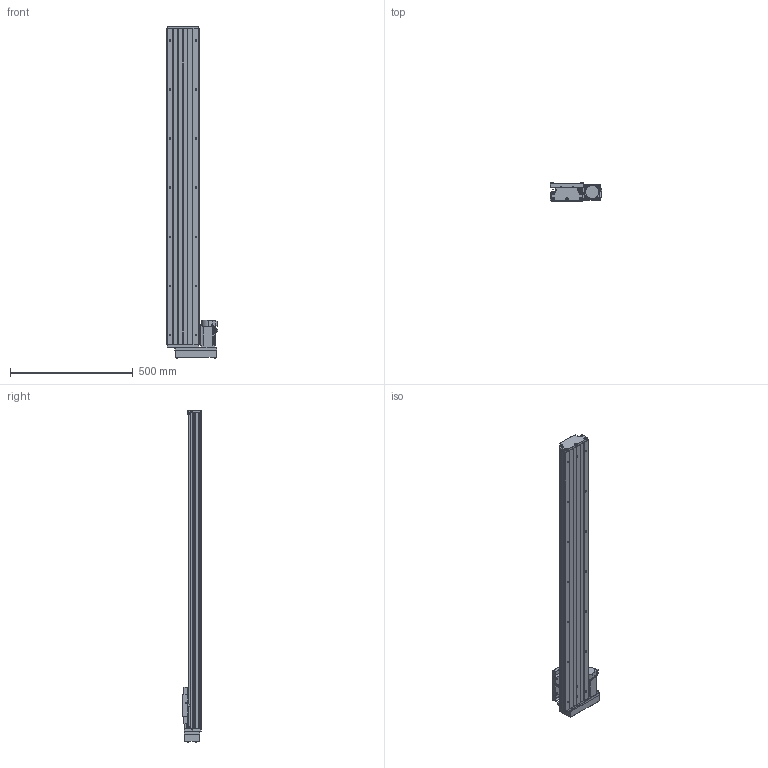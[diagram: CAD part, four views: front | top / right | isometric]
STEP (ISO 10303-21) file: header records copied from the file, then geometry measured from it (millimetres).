
FILE_DESCRIPTION (( 'STEP AP203' ), '1' );
FILE_NAME ('CTH130-1100-BR-M40-C4.step', '2023-06-30T02:50:07', ( '微软用户' ), ( '微软中国' ), 'SwSTEP 2.0', 'SolidWorks 2020', '' );
FILE_SCHEMA (( 'CONFIG_CONTROL_DESIGN' ));
Length unit declared in the file: millimetre
Products named in the file (20): CTH130-1100-BR-M40-C4; GBT70.1 M5℅16; GBT 70.2-M3¡Á5_M3¡Á6; GTH14-001_1100; CTHA60-017; す晦芛蹟隊 M3℅5; CTH130-002_GTH14-002; EE_SX911P_R; HG-KN43J-S100; GB T308.1-2013-6.35; CTHA60-016; GBT 70.2-M4¡Á35_M4¡Á35; GTH14-004; GBT 70.1-M3℅5; GTH14-015-2_CTHA86-015-2; GTH14-005; GBT77-2000 M3×3; GTH14-033; GB1155-6X6; CTH130-031
Assembly tree (60 placements, depth 2):
  CTH130-1100-BR-M40-C4
    GTH14-001_1100
    CTH130-002_GTH14-002
    GB T308.1-2013-6.35  x2
    GTH14-004
    GTH14-005
    GB1155-6X6  x2
    GBT70.1 M5℅16  x10
    CTHA60-017  x3
    EE_SX911P_R  x3
    CTHA60-016  x2
    GBT 70.1-M3℅5  x6
    GBT77-2000 M3×3  x6
    CTH130-031
    GBT 70.2-M3¡Á5_M3¡Á6  x8
    す晦芛蹟隊 M3℅5  x6
    HG-KN43J-S100
    GBT 70.2-M4¡Á35_M4¡Á35  x4
    GTH14-015-2_CTHA86-015-2
    GTH14-033
Bounding box: 209.3 x 76 x 1354.2 mm (x, y, z)
Volume: 7029920.7 mm3; surface area: 1121657.6 mm2
Topology: 63 solids, 63 shells, 2455 faces, 5845 edges, 3617 vertices
Faces by surface type: plane 1314, cylinder 662, cone 299, torus 124, sphere 36, bspline 20
Entity records: 44540 total; most frequent: CARTESIAN_POINT 9947, DIRECTION 6522, ORIENTED_EDGE 6396, EDGE_CURVE 3198, AXIS2_PLACEMENT_3D 2236, LINE 2050, VECTOR 2050, VERTEX_POINT 2027
